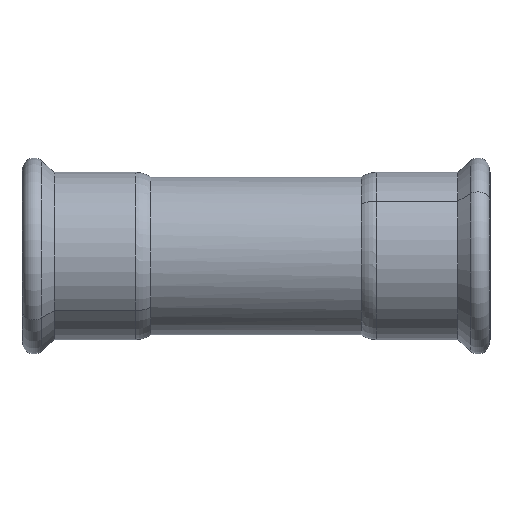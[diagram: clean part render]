
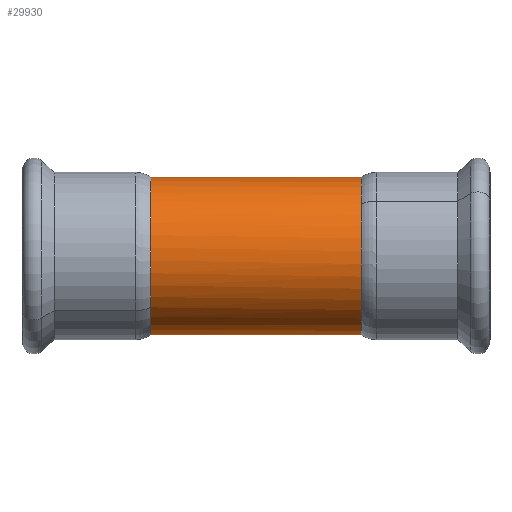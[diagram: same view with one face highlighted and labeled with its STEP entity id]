
A CAD part, top view. The second image highlights one B-rep face of the part: STEP entity #29930.
In plain terms, the highlighted cylindrical face has radius 33.35 mm (diameter 66.7 mm), a partial arc.
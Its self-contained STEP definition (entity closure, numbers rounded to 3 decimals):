
#170=CARTESIAN_POINT('',(3.4,0.,0.));
#180=DIRECTION('',(1.,0.,0.));
#190=DIRECTION('',(0.,-0.654,
-0.757));
#200=AXIS2_PLACEMENT_3D('',#170,#180,#190);
#210=CIRCLE('',#200,33.35);
#220=CARTESIAN_POINT('',(3.4,-33.35,0.));
#230=VERTEX_POINT('',#220);
#260=CARTESIAN_POINT('',(3.4,21.804,
25.235));
#270=VERTEX_POINT('',#260);
#280=EDGE_CURVE('',#270,#230,#210,.T.);
#29480=CARTESIAN_POINT('',(3.4,33.35,0.));
#29490=VERTEX_POINT('',#29480);
#29500=EDGE_CURVE('',#29490,#270,#210,.T.);
#29570=CARTESIAN_POINT('',(5.,0.,0.));
#29580=DIRECTION('',(1.,0.,0.));
#29590=DIRECTION('',(0.,1.,0.));
#29600=AXIS2_PLACEMENT_3D('',#29570,#29580,#29590);
#29610=CYLINDRICAL_SURFACE('',#29600,33.35);
#29620=CARTESIAN_POINT('',(5.,33.35,0.));
#29630=DIRECTION('',(1.,0.,0.));
#29640=VECTOR('',#29630,1.);
#29650=LINE('',#29620,#29640);
#29660=CARTESIAN_POINT('',(-85.6,33.35,0.));
#29670=VERTEX_POINT('',#29660);
#29680=EDGE_CURVE('',#29670,#29490,#29650,.T.);
#29690=ORIENTED_EDGE('',*,*,#29680,.F.);
#29700=ORIENTED_EDGE('',*,*,#29500,.F.);
#29710=ORIENTED_EDGE('',*,*,#280,.F.);
#29720=CARTESIAN_POINT('',(5.,-33.35,0.));
#29730=DIRECTION('',(1.,0.,0.));
#29740=VECTOR('',#29730,1.);
#29750=LINE('',#29720,#29740);
#29760=CARTESIAN_POINT('',(-85.6,-33.35,0.));
#29770=VERTEX_POINT('',#29760);
#29780=EDGE_CURVE('',#29770,#230,#29750,.T.);
#29790=ORIENTED_EDGE('',*,*,#29780,.T.);
#29800=CARTESIAN_POINT('',(-85.6,0.,0.));
#29810=DIRECTION('',(-1.,0.,0.));
#29820=DIRECTION('',(0.,0.654,
-0.757));
#29830=AXIS2_PLACEMENT_3D('',#29800,#29810,#29820);
#29840=CIRCLE('',#29830,33.35);
#29850=CARTESIAN_POINT('',(-85.6,-21.804,25.235));
#29860=VERTEX_POINT('',#29850);
#29870=EDGE_CURVE('',#29770,#29860,#29840,.T.);
#29880=ORIENTED_EDGE('',*,*,#29870,.F.);
#29890=EDGE_CURVE('',#29860,#29670,#29840,.T.);
#29900=ORIENTED_EDGE('',*,*,#29890,.F.);
#29910=EDGE_LOOP('',(#29900,#29880,#29790,#29710,#29700,#29690));
#29920=FACE_OUTER_BOUND('',#29910,.T.);
#29930=ADVANCED_FACE('',(#29920),#29610,.T.);
